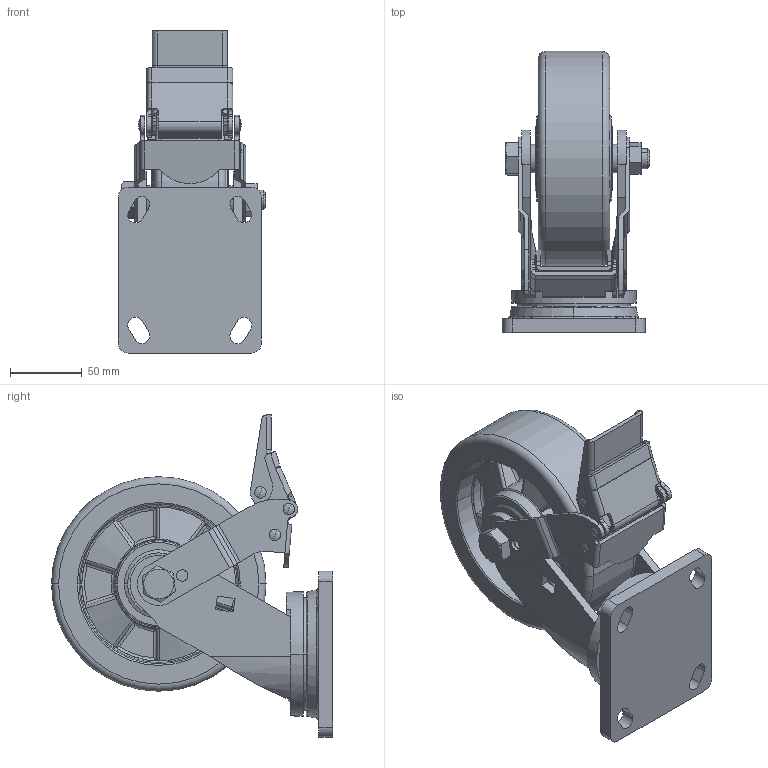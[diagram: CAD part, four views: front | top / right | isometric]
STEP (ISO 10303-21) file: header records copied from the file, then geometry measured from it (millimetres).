
FILE_DESCRIPTION((''),'2;1');
FILE_NAME('78126E-786-86A_ASM','2020-07-08T',('lenovo'),(''),'PRO/ENGINEER BY PARAMETRIC TECHNOLOGY CORPORATION, 2010280','PRO/ENGINEER BY PARAMETRIC TECHNOLOGY CORPORATION, 2010280','');
FILE_SCHEMA(('CONFIG_CONTROL_DESIGN'));
Length unit declared in the file: millimetre
Products named in the file (15): PRT0064; PRODUCT_79320; PRODUCT_61192; PRODUCT_132004; PRT0070; PRT0078; 780F-33-; PRT0095; PRT0103; PRT0105; PRT0106; PRT0107; 78126E-786-86A__________ASM_ASM; 78126E-786-86A__ASM_ASM; 78126E-786-86A_ASM
Assembly tree (18 placements, depth 4):
  78126E-786-86A_ASM
    78126E-786-86A__ASM_ASM
      78126E-786-86A__________ASM_ASM
        PRT0064
        PRODUCT_79320
        PRODUCT_61192  x5
        PRODUCT_132004
        PRT0070
        PRT0078
        780F-33-
        PRT0095
        PRT0103
        PRT0105
        PRT0106
        PRT0107
Bounding box: 103 x 196.5 x 225.17 mm (x, y, z)
Volume: 982225.5 mm3; surface area: 204680.1 mm2
Topology: 16 solids, 16 shells, 540 faces, 1376 edges, 879 vertices
Faces by surface type: cylinder 232, plane 194, torus 60, cone 32, sphere 12, bspline 10
Entity records: 17694 total; most frequent: CARTESIAN_POINT 4376, DIRECTION 2872, ORIENTED_EDGE 2672, EDGE_CURVE 1336, AXIS2_PLACEMENT_3D 1125, VERTEX_POINT 851, VECTOR 622, LINE 622
